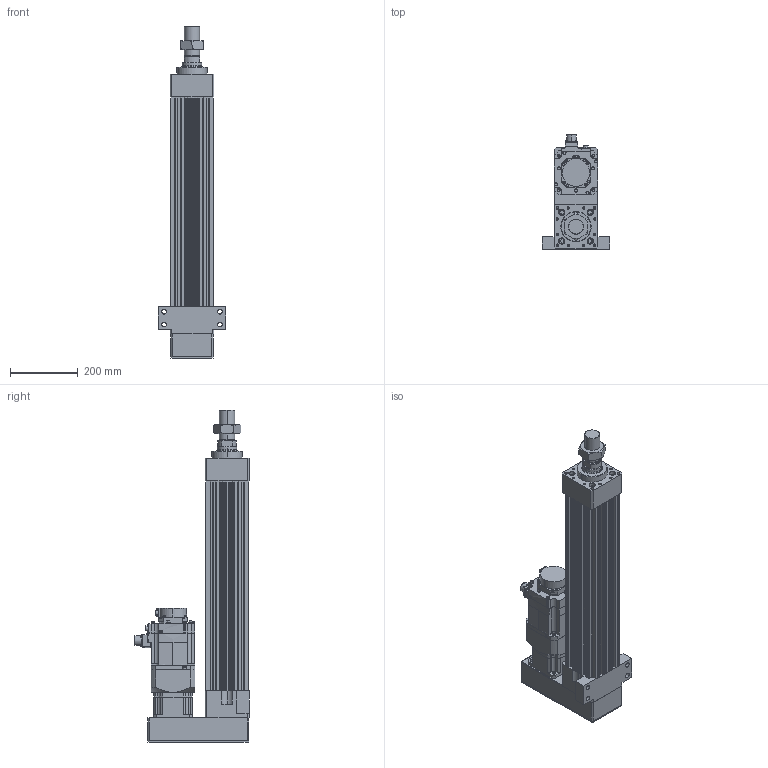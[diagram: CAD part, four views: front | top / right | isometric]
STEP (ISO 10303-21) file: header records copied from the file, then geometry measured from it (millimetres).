
FILE_DESCRIPTION (( 'STEP AP203' ), '1' );
FILE_NAME ('HES130NS(FS)(HS)-P400-W015G00-M-FFC.STEP', '2026-06-10T06:11:59', ( 'tms' ), ( '' ), 'SwSTEP 2.0', 'SolidWorks 2013', '' );
FILE_SCHEMA (( 'CONFIG_CONTROL_DESIGN' ));
Length unit declared in the file: millimetre
Products named in the file (8): M45X1.5P; HES130-M-ROD-400; HES130NS(FS)(HS)-P400-W015G00-M-FFC; AB1152; AB1151; HES130-FFC-400; HES130-P-G120; HG-SR152B
Assembly tree (7 placements, depth 2):
  HES130NS(FS)(HS)-P400-W015G00-M-FFC
    HES130-FFC-400
    HES130-M-ROD-400
    M45X1.5P
    HES130-P-G120
    AB1151
    AB1152
    HG-SR152B
Bounding box: 200 x 337.49 x 982 mm (x, y, z)
Volume: 11530846.5 mm3; surface area: 1439510.1 mm2
Topology: 5 solids, 12 shells, 1244 faces, 3150 edges, 2027 vertices
Faces by surface type: cylinder 584, plane 540, cone 106, bspline 10, torus 4
Entity records: 39199 total; most frequent: CARTESIAN_POINT 7512, DIRECTION 6807, ORIENTED_EDGE 6208, EDGE_CURVE 3114, AXIS2_PLACEMENT_3D 2543, VERTEX_POINT 2027, LINE 1721, VECTOR 1721
